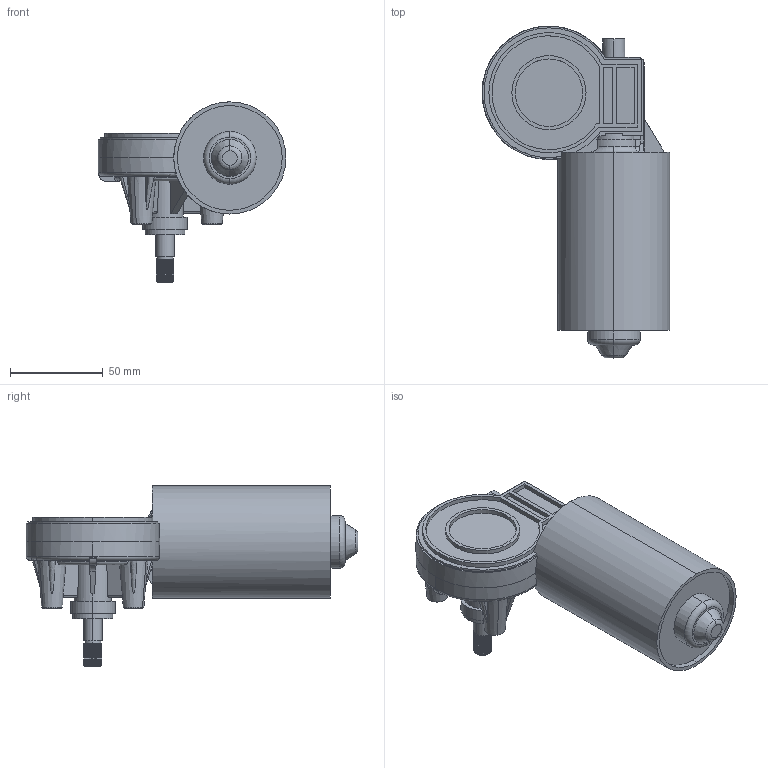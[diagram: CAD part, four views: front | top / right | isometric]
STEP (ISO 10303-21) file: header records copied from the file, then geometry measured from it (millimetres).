
FILE_DESCRIPTION (( 'STEP AP203' ), '1' );
FILE_NAME ('KTC POWER - 137 - 22W-28W.STEP', '2026-07-14T11:03:08', ( '' ), ( '' ), 'SwSTEP 2.0', 'SolidWorks 2019', '' );
FILE_SCHEMA (( 'CONFIG_CONTROL_DESIGN' ));
Length unit declared in the file: millimetre
Products named in the file (1): KTC POWER - 137 - 22W-28W
Bounding box: 101.32 x 178.99 x 97.25 mm (x, y, z)
Volume: 409002 mm3; surface area: 51442.5 mm2
Topology: 1 solids, 2 shells, 621 faces, 1591 edges, 997 vertices
Faces by surface type: plane 361, cylinder 114, cone 66, bspline 57, torus 21, sphere 2
Entity records: 22379 total; most frequent: CARTESIAN_POINT 7850, ORIENTED_EDGE 3166, DIRECTION 2797, EDGE_CURVE 1583, VERTEX_POINT 997, AXIS2_PLACEMENT_3D 975, VECTOR 847, LINE 847
